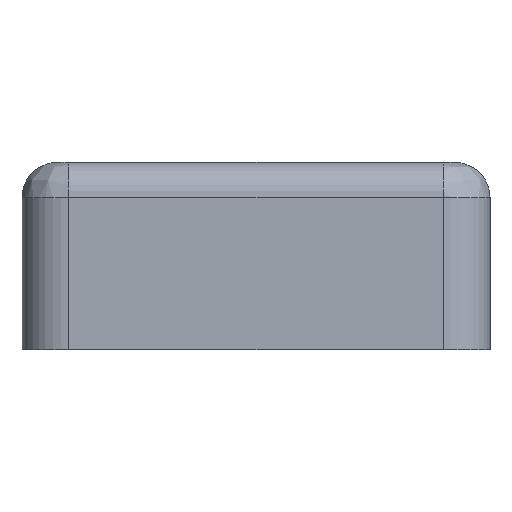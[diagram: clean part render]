
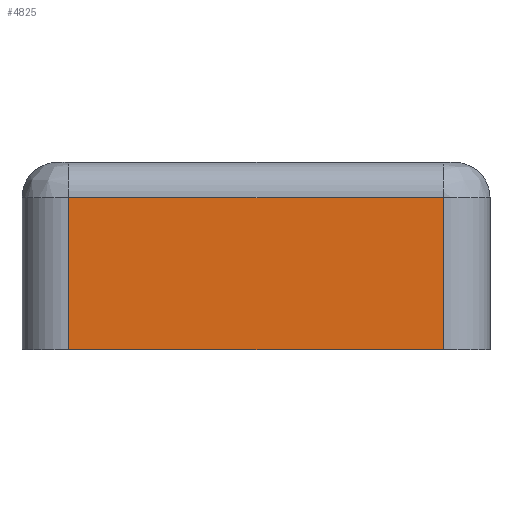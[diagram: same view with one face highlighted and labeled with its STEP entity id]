
A CAD part, left-side view. The second image highlights one B-rep face of the part: STEP entity #4825.
In plain terms, the highlighted planar face has unit normal (-1, 0, 0).
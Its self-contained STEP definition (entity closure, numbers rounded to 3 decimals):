
#23 = ORIENTED_EDGE ( 'NONE', *, *, #5956, .F. ) ;
#84 = VERTEX_POINT ( 'NONE', #1676 ) ;
#144 = VERTEX_POINT ( 'NONE', #1172 ) ;
#322 = PLANE ( 'NONE',  #5743 ) ;
#413 = CARTESIAN_POINT ( 'NONE',  ( -40., -20., 0. ) ) ;
#1172 = CARTESIAN_POINT ( 'NONE',  ( -40., 16., 0. ) ) ;
#1514 = VECTOR ( 'NONE', #2497, 1000. ) ;
#1676 = CARTESIAN_POINT ( 'NONE',  ( -40., -16., 0. ) ) ;
#1908 = ORIENTED_EDGE ( 'NONE', *, *, #7658, .F. ) ;
#2436 = ORIENTED_EDGE ( 'NONE', *, *, #5663, .F. ) ;
#2497 = DIRECTION ( 'NONE',  ( 0., -1., 0. ) ) ;
#2835 = DIRECTION ( 'NONE',  ( 1., 0., 0. ) ) ;
#3155 = CARTESIAN_POINT ( 'NONE',  ( -40., -16., 13. ) ) ;
#3166 = CARTESIAN_POINT ( 'NONE',  ( -40., -16., 16. ) ) ;
#3343 = LINE ( 'NONE', #3807, #6809 ) ;
#3359 = EDGE_CURVE ( 'NONE', #144, #4084, #3343, .T. ) ;
#3807 = CARTESIAN_POINT ( 'NONE',  ( -40., 16., 16. ) ) ;
#3969 = EDGE_LOOP ( 'NONE', ( #23, #5754, #2436, #1908 ) ) ;
#4082 = LINE ( 'NONE', #3166, #5523 ) ;
#4084 = VERTEX_POINT ( 'NONE', #7775 ) ;
#4292 = VECTOR ( 'NONE', #6618, 1000. ) ;
#4363 = FACE_OUTER_BOUND ( 'NONE', #3969, .T. ) ;
#4825 = ADVANCED_FACE ( 'NONE', ( #4363 ), #322, .F. ) ;
#5021 = VERTEX_POINT ( 'NONE', #3155 ) ;
#5280 = CARTESIAN_POINT ( 'NONE',  ( -40., -20., 16. ) ) ;
#5523 = VECTOR ( 'NONE', #7472, 1000. ) ;
#5663 = EDGE_CURVE ( 'NONE', #84, #144, #5942, .T. ) ;
#5743 = AXIS2_PLACEMENT_3D ( 'NONE', #5280, #2835, #7147 ) ;
#5754 = ORIENTED_EDGE ( 'NONE', *, *, #3359, .F. ) ;
#5942 = LINE ( 'NONE', #413, #4292 ) ;
#5956 = EDGE_CURVE ( 'NONE', #4084, #5021, #6032, .T. ) ;
#6032 = LINE ( 'NONE', #6228, #1514 ) ;
#6228 = CARTESIAN_POINT ( 'NONE',  ( -40., -20., 13. ) ) ;
#6289 = DIRECTION ( 'NONE',  ( 0., 0., 1. ) ) ;
#6618 = DIRECTION ( 'NONE',  ( 0., 1., 0. ) ) ;
#6809 = VECTOR ( 'NONE', #6289, 1000. ) ;
#7147 = DIRECTION ( 'NONE',  ( 0., 0., -1. ) ) ;
#7472 = DIRECTION ( 'NONE',  ( 0., 0., -1. ) ) ;
#7658 = EDGE_CURVE ( 'NONE', #5021, #84, #4082, .T. ) ;
#7775 = CARTESIAN_POINT ( 'NONE',  ( -40., 16., 13. ) ) ;
